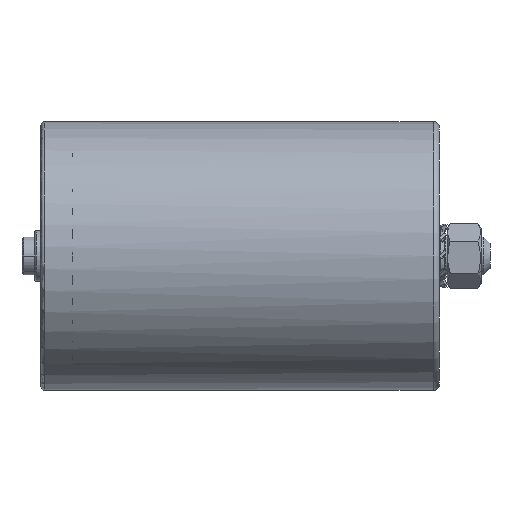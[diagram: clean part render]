
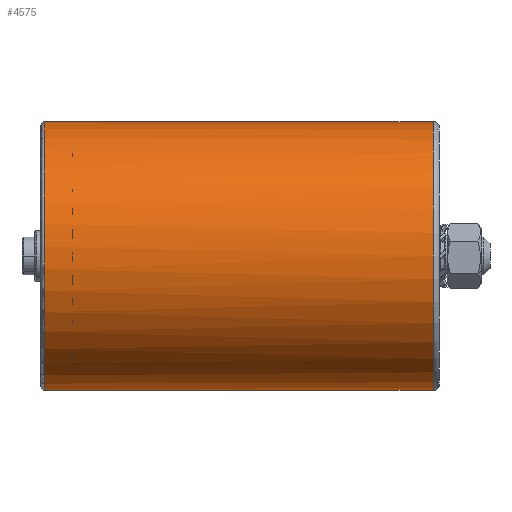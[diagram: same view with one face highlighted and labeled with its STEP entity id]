
A CAD part, left-side view. The second image highlights one B-rep face of the part: STEP entity #4575.
In plain terms, the highlighted cylindrical face has radius 42.5 mm (diameter 85 mm), a partial arc.
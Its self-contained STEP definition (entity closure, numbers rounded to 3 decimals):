
#18 = AXIS2_PLACEMENT_3D ( 'NONE', #6012, #3059, #9683 ) ;
#85 = LINE ( 'NONE', #2245, #1528 ) ;
#300 = DIRECTION ( 'NONE',  ( 0., 0., -1. ) ) ;
#444 = EDGE_LOOP ( 'NONE', ( #5117, #5658, #4931, #1272, #6580 ) ) ;
#594 = DIRECTION ( 'NONE',  ( 0., -1., 0. ) ) ;
#1008 = AXIS2_PLACEMENT_3D ( 'NONE', #7475, #6840, #7616 ) ;
#1032 = DIRECTION ( 'NONE',  ( 0., -1., 0. ) ) ;
#1272 = ORIENTED_EDGE ( 'NONE', *, *, #1976, .T. ) ;
#1528 = VECTOR ( 'NONE', #2944, 1000. ) ;
#1565 = CARTESIAN_POINT ( 'NONE',  ( 0., 125., -42.5 ) ) ;
#1967 = CARTESIAN_POINT ( 'NONE',  ( 0., 125., 42.5 ) ) ;
#1976 = EDGE_CURVE ( 'NONE', #6984, #4968, #85, .T. ) ;
#2245 = CARTESIAN_POINT ( 'NONE',  ( 0., 0., -42.5 ) ) ;
#2276 = DIRECTION ( 'NONE',  ( 0., -1., 0. ) ) ;
#2762 = CARTESIAN_POINT ( 'NONE',  ( -25.343, 125., -34.117 ) ) ;
#2766 = VECTOR ( 'NONE', #594, 1000. ) ;
#2944 = DIRECTION ( 'NONE',  ( 0., -1., 0. ) ) ;
#3059 = DIRECTION ( 'NONE',  ( 0., -1., 0. ) ) ;
#3199 = VERTEX_POINT ( 'NONE', #8687 ) ;
#3709 = LINE ( 'NONE', #7342, #2766 ) ;
#4448 = EDGE_CURVE ( 'NONE', #4723, #6984, #7551, .T. ) ;
#4575 = ADVANCED_FACE ( 'NONE', ( #4729 ), #7126, .T. ) ;
#4723 = VERTEX_POINT ( 'NONE', #2762 ) ;
#4729 = FACE_OUTER_BOUND ( 'NONE', #444, .T. ) ;
#4931 = ORIENTED_EDGE ( 'NONE', *, *, #4448, .T. ) ;
#4968 = VERTEX_POINT ( 'NONE', #6924 ) ;
#5117 = ORIENTED_EDGE ( 'NONE', *, *, #6191, .F. ) ;
#5658 = ORIENTED_EDGE ( 'NONE', *, *, #7471, .T. ) ;
#6012 = CARTESIAN_POINT ( 'NONE',  ( 0., 125., 0. ) ) ;
#6152 = AXIS2_PLACEMENT_3D ( 'NONE', #7763, #1032, #300 ) ;
#6191 = EDGE_CURVE ( 'NONE', #6839, #3199, #3709, .T. ) ;
#6580 = ORIENTED_EDGE ( 'NONE', *, *, #6642, .T. ) ;
#6642 = EDGE_CURVE ( 'NONE', #4968, #3199, #8552, .T. ) ;
#6839 = VERTEX_POINT ( 'NONE', #1967 ) ;
#6840 = DIRECTION ( 'NONE',  ( 0., 1., 0. ) ) ;
#6924 = CARTESIAN_POINT ( 'NONE',  ( 0., 2., -42.5 ) ) ;
#6984 = VERTEX_POINT ( 'NONE', #1565 ) ;
#7126 = CYLINDRICAL_SURFACE ( 'NONE', #6152, 42.5 ) ;
#7342 = CARTESIAN_POINT ( 'NONE',  ( 0., 0., 42.5 ) ) ;
#7471 = EDGE_CURVE ( 'NONE', #6839, #4723, #7599, .T. ) ;
#7475 = CARTESIAN_POINT ( 'NONE',  ( 0., 2., 0. ) ) ;
#7551 = CIRCLE ( 'NONE', #18, 42.5 ) ;
#7599 = CIRCLE ( 'NONE', #8845, 42.5 ) ;
#7616 = DIRECTION ( 'NONE',  ( 0., 0., -1. ) ) ;
#7763 = CARTESIAN_POINT ( 'NONE',  ( 0., 0., 0. ) ) ;
#8267 = DIRECTION ( 'NONE',  ( 0.596, 0., 0.803 ) ) ;
#8552 = CIRCLE ( 'NONE', #1008, 42.5 ) ;
#8687 = CARTESIAN_POINT ( 'NONE',  ( 0., 2., 42.5 ) ) ;
#8845 = AXIS2_PLACEMENT_3D ( 'NONE', #8993, #2276, #8267 ) ;
#8993 = CARTESIAN_POINT ( 'NONE',  ( 0., 125., 0. ) ) ;
#9683 = DIRECTION ( 'NONE',  ( 0.596, 0., 0.803 ) ) ;
